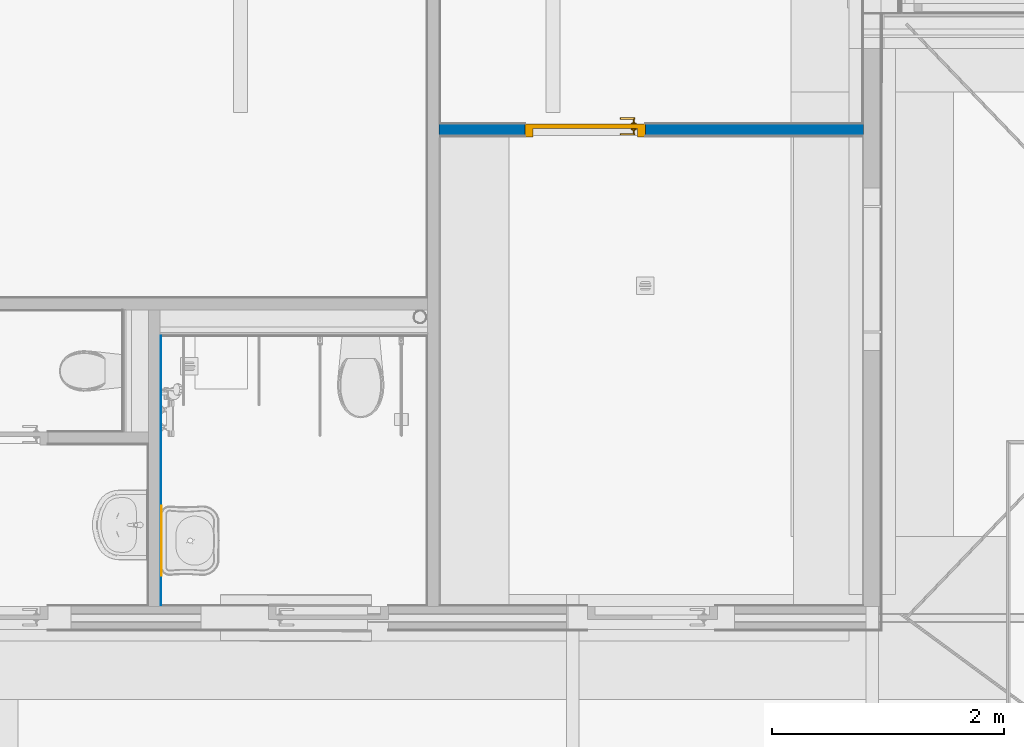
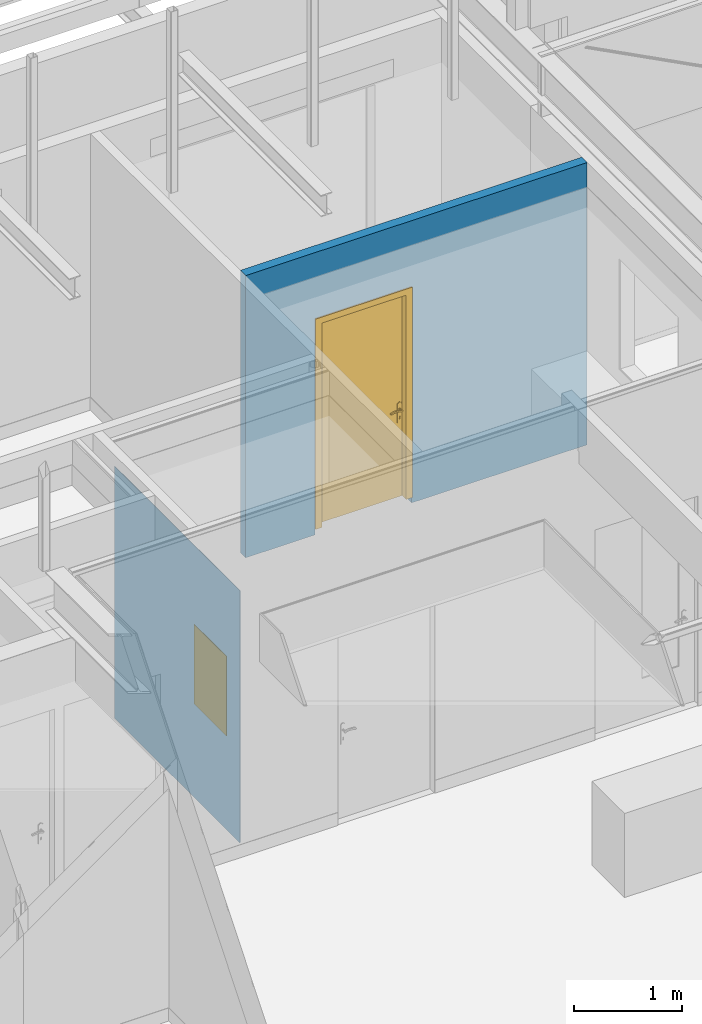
# One storey, part 11 of 788: 2 walls, 1 door, 1 window, 2 openings.
"""IFC2X3 building model written with IfcOpenShell, lengths in millimetres."""

from ifc_helpers import new_model, entity, si_unit, converted_unit, derived_unit, money_unit, direction, frame, origin_with_axes, place, context, subcontext, project, spatial, faceted_brep, source, transform, mapped, material, type_object, type_shapes, element, fill, save


model = new_model("IFC2X3")

# Units and contexts
model_context = context("Model", 3, precision=0.01, world=origin_with_axes(), true_north=direction((0.0, 1.0)))
plan_context = context("Plan", 3, precision=0.01, world=origin_with_axes(), true_north=direction((0.0, 1.0)))
body_context = subcontext(model_context, "Body", "Model", "MODEL_VIEW")
ifc_project = project(units=[si_unit("LENGTHUNIT", "METRE", prefix="MILLI"), si_unit("AREAUNIT", "SQUARE_METRE"), si_unit("VOLUMEUNIT", "CUBIC_METRE"), converted_unit("PLANEANGLEUNIT", "DEGREE", entity("IfcPlaneAngleMeasure", 0.0174532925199), si_unit("PLANEANGLEUNIT", "RADIAN"), dimensions=[0, 0, 0, 0, 0, 0, 0]), money_unit("EUR"), converted_unit("TIMEUNIT", "Year", entity("IfcTimeMeasure", 31556926.0), si_unit("TIMEUNIT", "SECOND"), dimensions=[0, 0, 1, 0, 0, 0, 0]), si_unit("MASSUNIT", "GRAM", prefix="KILO"), si_unit("THERMODYNAMICTEMPERATUREUNIT", "DEGREE_CELSIUS"), si_unit("LUMINOUSINTENSITYUNIT", "LUMEN"), si_unit("ENERGYUNIT", "JOULE", prefix="MEGA"), derived_unit("THERMALCONDUCTANCEUNIT", [(si_unit("POWERUNIT", "WATT"), 1), (si_unit("LENGTHUNIT", "METRE"), -1), (si_unit("THERMODYNAMICTEMPERATUREUNIT", "KELVIN"), -1)]), derived_unit("SPECIFICHEATCAPACITYUNIT", [(si_unit("ENERGYUNIT", "JOULE"), 1), (si_unit("MASSUNIT", "GRAM", prefix="KILO"), -1), (si_unit("THERMODYNAMICTEMPERATUREUNIT", "KELVIN"), -1)]), derived_unit("MASSDENSITYUNIT", [(si_unit("MASSUNIT", "GRAM", prefix="KILO"), 1), (si_unit("VOLUMEUNIT", "CUBIC_METRE"), -1)])], contexts=[model_context, plan_context])

# Site, building, storey
site_placement = place(None, origin_with_axes())
site = spatial("IfcSite", under=ifc_project, at=site_placement, Name="Site", CompositionType="ELEMENT")
building_placement = place(site_placement, origin_with_axes())
building = spatial("IfcBuilding", under=site, at=building_placement, Name="Naam gebouw", CompositionType="ELEMENT")
storey_placement = place(building_placement, origin_with_axes())
storey = spatial("IfcBuildingStorey", under=building, at=storey_placement, Name="Begane grond", CompositionType="ELEMENT", Elevation=0.0)

# Wall, opening, door
ifc_material_1 = material(Name="Steen - Betonblok C")
wall_type_1 = type_object("IfcWallType", Name="22 Binnenwand NC_betonblok 100mm 100", PredefinedType="ELEMENTEDWALL")
wall_1_placement = place(storey_placement, frame((81786.0166564, -46554.001831, 830.0), z_axis=(0.0, 0.0, 1.0), x_axis=(1.0, 0.0, 0.0)))
wall_1 = element("IfcWall", 1, at=wall_1_placement, inside=storey, type_object=wall_type_1, material=ifc_material_1, Name="Binnenwand", context=body_context, shape_type="Brep", body=[
    faceted_brep([(789.982892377, 0.0, 2447.0), (789.982892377, 0.0, 70.0), (789.982892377, 0.0, 0.0), (50.0, 0.0, 0.0), (50.0, 0.0, 3190.0), (3699.98467863, 0.0, 3190.0), (3699.98467863, 0.0, 0.0), (1823.98289238, 0.0, 0.0), (1823.98289238, 0.0, 70.0), (1823.98289238, 0.0, 2447.0), (789.982892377, -100.0, 2447.0), (789.982892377, -100.0, 70.0), (789.982892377, -100.0, 0.0), (50.0, -100.0, 0.0), (50.0, -100.0, 3190.0), (3699.98467863, -100.0, 3190.0), (3699.98467863, -100.0, 0.0), (1823.98289238, -100.0, 0.0), (1823.98289238, -100.0, 70.0), (1823.98289238, -100.0, 2447.0)], [[[0, 1, 2, 3, 4, 5, 6, 7, 8, 9]], [[1, 0, 10, 11]], [[1, 11, 12, 2]], [[2, 12, 13, 3]], [[13, 14, 4, 3]], [[14, 15, 5, 4]], [[5, 15, 16, 6]], [[17, 7, 6, 16]], [[18, 8, 7, 17]], [[9, 8, 18, 19]], [[0, 9, 19, 10]], [[19, 18, 17, 16, 15, 14, 13, 12, 11, 10]]]),
])
opening_1_placement = place(wall_1_placement, frame((1306.98289238, 0.0, 70.0), z_axis=(0.0, 0.0, 1.0), x_axis=(1.0, 0.0, 0.0)))
opening_1 = element("IfcOpeningElement", 2, at=opening_1_placement, cuts=wall_1, Name="b1.13-sp", context=body_context, shape_type="Brep", body=[
    faceted_brep([(-517.0, 200.0, 2377.0), (-517.0, 200.0, 0.0), (-517.0, -100.0, 0.0), (-517.0, -100.0, 2377.0), (517.0, 200.0, 2377.0), (517.0, 200.0, 0.0), (517.0, -100.0, 0.0), (517.0, -100.0, 2377.0)], [[[0, 1, 2, 3]], [[0, 4, 5, 1]], [[1, 5, 6, 2]], [[3, 2, 6, 7]], [[4, 0, 3, 7]], [[5, 4, 7, 6]]]),
])
door_style = type_object("IfcDoorStyle", Name="D1 25", ConstructionType="NOTDEFINED", OperationType="SINGLE_SWING_LEFT", ParameterTakesPrecedence=False, Sizeable=False)
shared_shape_1 = source(origin_with_axes(), body_context, "Body", "Brep", [
    faceted_brep([(450.0, -40.0, 0.0), (450.0, -114.0, 0.0), (450.0, -114.0, 2310.0), (450.0, -40.0, 2310.0), (467.0, -40.0, 0.0), (467.0, 0.0, 0.0), (517.0, 0.0, 0.0), (517.0, -114.0, 0.0), (517.0, -114.0, 2310.0), (467.0, -40.0, 2310.0), (517.0, 0.0, 2310.0), (467.0, 0.0, 2310.0)], [[[0, 1, 2, 3]], [[4, 5, 6, 7, 1, 0]], [[1, 7, 8, 2]], [[9, 3, 2, 8, 10, 11]], [[9, 4, 0, 3]], [[11, 5, 4, 9]], [[11, 10, 6, 5]], [[6, 10, 8, 7]]]),
    faceted_brep([(-467.0, -40.0, 2310.0), (-467.0, 0.0, 2310.0), (-517.0, 0.0, 2310.0), (-517.0, -114.0, 2310.0), (-450.0, -114.0, 2310.0), (-450.0, -40.0, 2310.0), (-467.0, -40.0, 0.0), (-467.0, 0.0, 0.0), (-517.0, 0.0, 0.0), (-517.0, -114.0, 0.0), (-450.0, -114.0, 0.0), (-450.0, -40.0, 0.0)], [[[0, 1, 2, 3, 4, 5]], [[0, 6, 7, 1]], [[7, 8, 2, 1]], [[2, 8, 9, 3]], [[3, 9, 10, 4]], [[5, 4, 10, 11]], [[5, 11, 6, 0]], [[6, 11, 10, 9, 8, 7]]]),
    faceted_brep([(467.0, 0.0, 2327.0), (-467.0, 0.0, 2327.0), (-467.0, 0.0, 2310.0), (-517.0, 0.0, 2310.0), (-517.0, 0.0, 2377.0), (517.0, 0.0, 2377.0), (517.0, 0.0, 2310.0), (467.0, 0.0, 2310.0), (467.0, -40.0, 2327.0), (-467.0, -40.0, 2327.0), (-467.0, -40.0, 2310.0), (-450.0, -40.0, 2310.0), (-450.0, -114.0, 2310.0), (-517.0, -114.0, 2310.0), (-517.0, -114.0, 2377.0), (517.0, -114.0, 2377.0), (517.0, -114.0, 2310.0), (467.0, -40.0, 2310.0), (450.0, -114.0, 2310.0), (450.0, -40.0, 2310.0)], [[[0, 1, 2, 3, 4, 5, 6, 7]], [[0, 8, 9, 1]], [[1, 9, 10, 2]], [[10, 11, 12, 13, 3, 2]], [[4, 3, 13, 14]], [[5, 4, 14, 15]], [[6, 5, 15, 16]], [[17, 7, 6, 16, 18, 19]], [[7, 17, 8, 0]], [[10, 9, 8, 17, 19, 11]], [[19, 18, 12, 11]], [[12, 18, 16, 15, 14, 13]]]),
    faceted_brep([(421.702282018, -80.0, 1006.47213595), (421.702282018, -60.0, 1006.47213595), (417.0, -60.0, 1008.0), (417.0, -80.0, 1008.0), (424.60845213, -80.0, 1002.47213595), (424.60845213, -60.0, 1002.47213595), (422.877852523, -58.0, 1008.09016994), (417.0, -58.0, 1010.0), (412.297717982, -60.0, 1006.47213595), (412.297717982, -80.0, 1006.47213595), (409.39154787, -80.0, 1002.47213595), (409.39154787, -80.0, 997.527864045), (412.297717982, -80.0, 993.527864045), (417.0, -80.0, 992.0), (421.702282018, -80.0, 993.527864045), (424.60845213, -80.0, 997.527864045), (424.60845213, -60.0, 997.527864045), (426.510565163, -58.0, 1003.09016994), (422.877852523, -50.0, 1008.09016994), (417.0, -50.0, 1010.0), (411.122147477, -58.0, 1008.09016994), (409.39154787, -60.0, 1002.47213595), (409.39154787, -60.0, 997.527864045), (412.297717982, -60.0, 993.527864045), (417.0, -60.0, 992.0), (421.702282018, -60.0, 993.527864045), (426.510565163, -58.0, 996.909830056), (426.510565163, -50.0, 1003.09016994), (426.510565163, -50.0, 996.909830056), (422.877852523, -50.0, 991.909830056), (417.0, -50.0, 990.0), (411.122147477, -50.0, 991.909830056), (407.489434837, -50.0, 996.909830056), (407.489434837, -50.0, 1003.09016994), (411.122147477, -50.0, 1008.09016994), (407.489434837, -58.0, 1003.09016994), (407.489434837, -58.0, 996.909830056), (411.122147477, -58.0, 991.909830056), (417.0, -58.0, 990.0), (422.877852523, -58.0, 991.909830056)], [[[0, 1, 2, 3]], [[4, 5, 1, 0]], [[1, 6, 7, 2]], [[3, 2, 8, 9]], [[3, 9, 10, 11, 12, 13, 14, 15, 4, 0]], [[15, 16, 5, 4]], [[5, 17, 6, 1]], [[6, 18, 19, 7]], [[2, 7, 20, 8]], [[9, 8, 21, 10]], [[10, 21, 22, 11]], [[11, 22, 23, 12]], [[12, 23, 24, 13]], [[13, 24, 25, 14]], [[14, 25, 16, 15]], [[16, 26, 17, 5]], [[17, 27, 18, 6]], [[19, 18, 27, 28, 29, 30, 31, 32, 33, 34]], [[7, 19, 34, 20]], [[8, 20, 35, 21]], [[21, 35, 36, 22]], [[22, 36, 37, 23]], [[23, 37, 38, 24]], [[24, 38, 39, 25]], [[25, 39, 26, 16]], [[26, 28, 27, 17]], [[39, 29, 28, 26]], [[38, 30, 29, 39]], [[37, 31, 30, 38]], [[36, 32, 31, 37]], [[35, 33, 32, 36]], [[20, 34, 33, 35]]]),
    faceted_brep([(404.811616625, -50.0, 1067.59695641), (400.2, -50.0, 1060.0), (394.5, -50.0, 1060.0), (394.5, -50.0, 840.0), (400.2, -50.0, 840.0), (404.811616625, -50.0, 832.403043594), (412.556444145, -50.0, 828.044328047), (421.443555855, -50.0, 828.044328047), (429.188383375, -50.0, 832.403043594), (433.8, -50.0, 840.0), (439.5, -50.0, 840.0), (439.5, -50.0, 1060.0), (433.8, -50.0, 1060.0), (429.188383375, -50.0, 1067.59695641), (421.443555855, -50.0, 1071.95567195), (412.556444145, -50.0, 1071.95567195), (417.0, -50.0, 917.425445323), (422.375182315, -50.0, 915.143815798), (424.467830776, -50.0, 909.692280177), (422.0, -50.0, 904.4), (422.0, -50.0, 887.5), (420.535533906, -50.0, 883.964466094), (417.0, -50.0, 882.5), (413.464466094, -50.0, 883.964466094), (412.0, -50.0, 887.5), (412.0, -50.0, 904.4), (409.532169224, -50.0, 909.692280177), (411.624817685, -50.0, 915.143815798), (404.811616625, -40.0, 1067.59695641), (400.2, -40.0, 1060.0), (394.5, -40.0, 1060.0), (394.5, -40.0, 840.0), (400.2, -40.0, 840.0), (404.811616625, -40.0, 832.403043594), (412.556444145, -40.0, 828.044328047), (421.443555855, -40.0, 828.044328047), (429.188383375, -40.0, 832.403043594), (433.8, -40.0, 840.0), (439.5, -40.0, 840.0), (439.5, -40.0, 1060.0), (433.8, -40.0, 1060.0), (429.188383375, -40.0, 1067.59695641), (421.443555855, -40.0, 1071.95567195), (412.556444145, -40.0, 1071.95567195), (417.0, -40.0, 917.425445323), (422.375182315, -40.0, 915.143815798), (424.467830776, -40.0, 909.692280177), (422.0, -40.0, 904.4), (422.0, -40.0, 887.5), (420.535533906, -40.0, 883.964466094), (417.0, -40.0, 882.5), (413.464466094, -40.0, 883.964466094), (412.0, -40.0, 887.5), (412.0, -40.0, 904.4), (409.532169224, -40.0, 909.692280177), (411.624817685, -40.0, 915.143815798)], [[[0, 1, 2, 3, 4, 5, 6, 7, 8, 9, 10, 11, 12, 13, 14, 15], [16, 17, 18, 19, 20, 21, 22, 23, 24, 25, 26, 27]], [[0, 28, 29, 1]], [[1, 29, 30, 2]], [[2, 30, 31, 3]], [[3, 31, 32, 4]], [[4, 32, 33, 5]], [[5, 33, 34, 6]], [[6, 34, 35, 7]], [[7, 35, 36, 8]], [[8, 36, 37, 9]], [[9, 37, 38, 10]], [[10, 38, 39, 11]], [[11, 39, 40, 12]], [[12, 40, 41, 13]], [[13, 41, 42, 14]], [[14, 42, 43, 15]], [[15, 43, 28, 0]], [[16, 44, 45, 17]], [[17, 45, 46, 18]], [[18, 46, 47, 19]], [[47, 48, 20, 19]], [[21, 20, 48, 49]], [[22, 21, 49, 50]], [[23, 22, 50, 51]], [[24, 23, 51, 52]], [[25, 24, 52, 53]], [[25, 53, 54, 26]], [[26, 54, 55, 27]], [[27, 55, 44, 16]], [[32, 31, 30, 29, 28, 43, 42, 41, 40, 39, 38, 37, 36, 35, 34, 33], [46, 45, 44, 55, 54, 53, 52, 51, 50, 49, 48, 47]]]),
    faceted_brep([(302.747, -80.0, 1007.158), (302.745508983, -80.0, 1007.19388416), (302.745508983, -95.0, 1007.19388416), (302.747, -95.0, 1007.158), (329.774630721, -80.0, 1014.32652034), (357.602743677, -80.0, 1017.06086405), (385.508740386, -80.0, 1015.29002982), (412.768, -80.0, 1009.06), (419.170575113, -80.0, 1009.76125134), (424.672633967, -80.0, 1006.41280843), (426.991512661, -80.0, 1000.40385485), (425.165167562, -80.0, 994.227352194), (419.951302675, -80.0, 990.445773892), (413.513017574, -80.0, 990.628000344), (408.521392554, -80.0, 994.698430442), (408.542, -80.0, 994.666), (383.253286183, -80.0, 1000.19878945), (357.410818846, -80.0, 1001.71460194), (331.648684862, -80.0, 999.176244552), (306.599, -80.0, 992.646), (301.055815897, -80.0, 993.568490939), (297.69427449, -80.0, 998.071591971), (298.385844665, -80.0, 1003.64829442), (298.385844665, -95.0, 1003.64829442), (297.69427449, -95.0, 998.071591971), (301.055815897, -95.0, 993.568490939), (306.599, -95.0, 992.646), (331.648684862, -95.0, 999.176244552), (357.410818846, -95.0, 1001.71460194), (383.253286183, -95.0, 1000.19878945), (408.542, -95.0, 994.666), (408.521392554, -95.0, 994.698430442), (413.513017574, -95.0, 990.628000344), (419.951302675, -95.0, 990.445773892), (425.165167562, -95.0, 994.227352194), (426.991512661, -95.0, 1000.40385485), (424.672633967, -95.0, 1006.41280843), (419.170575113, -95.0, 1009.76125134), (412.768, -95.0, 1009.06), (385.508740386, -95.0, 1015.29002982), (357.602743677, -95.0, 1017.06086405), (329.774630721, -95.0, 1014.32652034)], [[[0, 1, 2, 3]], [[0, 4, 5, 6, 7, 8, 9, 10, 11, 12, 13, 14, 15, 16, 17, 18, 19, 20, 21, 22, 1]], [[1, 22, 23, 2]], [[3, 2, 23, 24, 25, 26, 27, 28, 29, 30, 31, 32, 33, 34, 35, 36, 37, 38, 39, 40, 41]], [[4, 0, 3, 41]], [[5, 4, 41, 40]], [[6, 5, 40, 39]], [[7, 6, 39, 38]], [[8, 7, 38, 37]], [[9, 8, 37, 36]], [[10, 9, 36, 35]], [[11, 10, 35, 34]], [[12, 11, 34, 33]], [[13, 12, 33, 32]], [[14, 13, 32, 31]], [[15, 14, 31, 30]], [[16, 15, 30, 29]], [[17, 16, 29, 28]], [[18, 17, 28, 27]], [[19, 18, 27, 26]], [[20, 19, 26, 25]], [[21, 20, 25, 24]], [[22, 21, 24, 23]]]),
    faceted_brep([(421.702282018, 40.0, 1006.47213595), (417.0, 40.0, 1008.0), (417.0, 20.0, 1008.0), (421.702282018, 20.0, 1006.47213595), (424.60845213, 40.0, 1002.47213595), (424.60845213, 40.0, 997.527864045), (421.702282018, 40.0, 993.527864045), (417.0, 40.0, 992.0), (412.297717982, 40.0, 993.527864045), (409.39154787, 40.0, 997.527864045), (409.39154787, 40.0, 1002.47213595), (412.297717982, 40.0, 1006.47213595), (412.297717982, 20.0, 1006.47213595), (417.0, 18.0, 1010.0), (422.877852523, 18.0, 1008.09016994), (424.60845213, 20.0, 1002.47213595), (424.60845213, 20.0, 997.527864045), (421.702282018, 20.0, 993.527864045), (417.0, 20.0, 992.0), (412.297717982, 20.0, 993.527864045), (409.39154787, 20.0, 997.527864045), (409.39154787, 20.0, 1002.47213595), (411.122147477, 18.0, 1008.09016994), (417.0, 10.0, 1010.0), (422.877852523, 10.0, 1008.09016994), (426.510565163, 18.0, 1003.09016994), (426.510565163, 18.0, 996.909830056), (422.877852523, 18.0, 991.909830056), (417.0, 18.0, 990.0), (411.122147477, 18.0, 991.909830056), (407.489434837, 18.0, 996.909830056), (407.489434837, 18.0, 1003.09016994), (411.122147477, 10.0, 1008.09016994), (407.489434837, 10.0, 1003.09016994), (407.489434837, 10.0, 996.909830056), (411.122147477, 10.0, 991.909830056), (417.0, 10.0, 990.0), (422.877852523, 10.0, 991.909830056), (426.510565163, 10.0, 996.909830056), (426.510565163, 10.0, 1003.09016994)], [[[0, 1, 2, 3]], [[1, 0, 4, 5, 6, 7, 8, 9, 10, 11]], [[1, 11, 12, 2]], [[3, 2, 13, 14]], [[4, 0, 3, 15]], [[5, 4, 15, 16]], [[6, 5, 16, 17]], [[7, 6, 17, 18]], [[8, 7, 18, 19]], [[9, 8, 19, 20]], [[10, 9, 20, 21]], [[11, 10, 21, 12]], [[2, 12, 22, 13]], [[14, 13, 23, 24]], [[15, 3, 14, 25]], [[16, 15, 25, 26]], [[17, 16, 26, 27]], [[18, 17, 27, 28]], [[19, 18, 28, 29]], [[20, 19, 29, 30]], [[21, 20, 30, 31]], [[12, 21, 31, 22]], [[13, 22, 32, 23]], [[23, 32, 33, 34, 35, 36, 37, 38, 39, 24]], [[25, 14, 24, 39]], [[26, 25, 39, 38]], [[27, 26, 38, 37]], [[28, 27, 37, 36]], [[29, 28, 36, 35]], [[30, 29, 35, 34]], [[31, 30, 34, 33]], [[22, 31, 33, 32]]]),
    faceted_brep([(404.811616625, 0.0, 1067.59695641), (400.2, 0.0, 1060.0), (394.5, 0.0, 1060.0), (394.5, 0.0, 840.0), (400.2, 0.0, 840.0), (404.811616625, 0.0, 832.403043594), (412.556444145, 0.0, 828.044328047), (421.443555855, 0.0, 828.044328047), (429.188383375, 0.0, 832.403043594), (433.8, 0.0, 840.0), (439.5, 0.0, 840.0), (439.5, 0.0, 1060.0), (433.8, 0.0, 1060.0), (429.188383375, 0.0, 1067.59695641), (421.443555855, 0.0, 1071.95567195), (412.556444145, 0.0, 1071.95567195), (417.0, 0.0, 917.425445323), (422.375182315, 0.0, 915.143815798), (424.467830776, 0.0, 909.692280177), (422.0, 0.0, 904.4), (422.0, 0.0, 887.5), (420.535533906, 0.0, 883.964466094), (417.0, 0.0, 882.5), (413.464466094, 0.0, 883.964466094), (412.0, 0.0, 887.5), (412.0, 0.0, 904.4), (409.532169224, 0.0, 909.692280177), (411.624817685, 0.0, 915.143815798), (404.811616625, 10.0, 1067.59695641), (400.2, 10.0, 1060.0), (394.5, 10.0, 1060.0), (394.5, 10.0, 840.0), (400.2, 10.0, 840.0), (404.811616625, 10.0, 832.403043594), (412.556444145, 10.0, 828.044328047), (421.443555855, 10.0, 828.044328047), (429.188383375, 10.0, 832.403043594), (433.8, 10.0, 840.0), (439.5, 10.0, 840.0), (439.5, 10.0, 1060.0), (433.8, 10.0, 1060.0), (429.188383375, 10.0, 1067.59695641), (421.443555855, 10.0, 1071.95567195), (412.556444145, 10.0, 1071.95567195), (417.0, 10.0, 917.425445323), (422.375182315, 10.0, 915.143815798), (424.467830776, 10.0, 909.692280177), (422.0, 10.0, 904.4), (422.0, 10.0, 887.5), (420.535533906, 10.0, 883.964466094), (417.0, 10.0, 882.5), (413.464466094, 10.0, 883.964466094), (412.0, 10.0, 887.5), (412.0, 10.0, 904.4), (409.532169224, 10.0, 909.692280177), (411.624817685, 10.0, 915.143815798)], [[[0, 1, 2, 3, 4, 5, 6, 7, 8, 9, 10, 11, 12, 13, 14, 15], [16, 17, 18, 19, 20, 21, 22, 23, 24, 25, 26, 27]], [[28, 29, 1, 0]], [[29, 30, 2, 1]], [[30, 31, 3, 2]], [[31, 32, 4, 3]], [[32, 33, 5, 4]], [[33, 34, 6, 5]], [[34, 35, 7, 6]], [[35, 36, 8, 7]], [[36, 37, 9, 8]], [[37, 38, 10, 9]], [[38, 39, 11, 10]], [[39, 40, 12, 11]], [[40, 41, 13, 12]], [[41, 42, 14, 13]], [[42, 43, 15, 14]], [[43, 28, 0, 15]], [[16, 44, 45, 17]], [[17, 45, 46, 18]], [[18, 46, 47, 19]], [[47, 48, 20, 19]], [[21, 20, 48, 49]], [[22, 21, 49, 50]], [[23, 22, 50, 51]], [[24, 23, 51, 52]], [[25, 24, 52, 53]], [[25, 53, 54, 26]], [[26, 54, 55, 27]], [[27, 55, 44, 16]], [[32, 31, 30, 29, 28, 43, 42, 41, 40, 39, 38, 37, 36, 35, 34, 33], [46, 45, 44, 55, 54, 53, 52, 51, 50, 49, 48, 47]]]),
    faceted_brep([(302.747, 40.0, 1007.158), (302.747, 55.0, 1007.158), (302.745508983, 55.0, 1007.19388416), (302.745508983, 40.0, 1007.19388416), (329.774630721, 40.0, 1014.32652034), (329.774630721, 55.0, 1014.32652034), (357.602743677, 55.0, 1017.06086405), (385.508740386, 55.0, 1015.29002982), (412.768, 55.0, 1009.06), (419.170575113, 55.0, 1009.76125134), (424.672633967, 55.0, 1006.41280843), (426.991512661, 55.0, 1000.40385485), (425.165167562, 55.0, 994.227352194), (419.951302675, 55.0, 990.445773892), (413.513017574, 55.0, 990.628000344), (408.521392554, 55.0, 994.698430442), (408.542, 55.0, 994.666), (383.253286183, 55.0, 1000.19878945), (357.410818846, 55.0, 1001.71460194), (331.648684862, 55.0, 999.176244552), (306.599, 55.0, 992.646), (301.055815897, 55.0, 993.568490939), (297.69427449, 55.0, 998.071591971), (298.385844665, 55.0, 1003.64829442), (298.385844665, 40.0, 1003.64829442), (297.69427449, 40.0, 998.071591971), (301.055815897, 40.0, 993.568490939), (306.599, 40.0, 992.646), (331.648684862, 40.0, 999.176244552), (357.410818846, 40.0, 1001.71460194), (383.253286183, 40.0, 1000.19878945), (408.542, 40.0, 994.666), (408.521392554, 40.0, 994.698430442), (413.513017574, 40.0, 990.628000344), (419.951302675, 40.0, 990.445773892), (425.165167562, 40.0, 994.227352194), (426.991512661, 40.0, 1000.40385485), (424.672633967, 40.0, 1006.41280843), (419.170575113, 40.0, 1009.76125134), (412.768, 40.0, 1009.06), (385.508740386, 40.0, 1015.29002982), (357.602743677, 40.0, 1017.06086405)], [[[0, 1, 2, 3]], [[4, 5, 1, 0]], [[1, 5, 6, 7, 8, 9, 10, 11, 12, 13, 14, 15, 16, 17, 18, 19, 20, 21, 22, 23, 2]], [[3, 2, 23, 24]], [[0, 3, 24, 25, 26, 27, 28, 29, 30, 31, 32, 33, 34, 35, 36, 37, 38, 39, 40, 41, 4]], [[41, 6, 5, 4]], [[40, 7, 6, 41]], [[39, 8, 7, 40]], [[38, 9, 8, 39]], [[37, 10, 9, 38]], [[36, 11, 10, 37]], [[35, 12, 11, 36]], [[34, 13, 12, 35]], [[33, 14, 13, 34]], [[32, 15, 14, 33]], [[31, 16, 15, 32]], [[30, 17, 16, 31]], [[29, 18, 17, 30]], [[28, 19, 18, 29]], [[27, 20, 19, 28]], [[26, 21, 20, 27]], [[25, 22, 21, 26]], [[24, 23, 22, 25]]]),
    faceted_brep([(-467.0, 0.0, 0.0), (467.0, 0.0, 0.0), (467.0, -40.0, 0.0), (-467.0, -40.0, 0.0), (-467.0, 0.0, 2327.0), (467.0, 0.0, 2327.0), (467.0, -40.0, 2327.0), (-467.0, -40.0, 2327.0)], [[[0, 1, 2, 3]], [[0, 4, 5, 1]], [[1, 5, 6, 2]], [[3, 2, 6, 7]], [[4, 0, 3, 7]], [[5, 4, 7, 6]]]),
])
type_shapes(door_style, [shared_shape_1])
door_placement = place(opening_1_placement, frame((-517.0, 0.0, 0.0), z_axis=(0.0, 0.0, 1.0), x_axis=(1.0, 0.0, 0.0)))
door = element("IfcDoor", 3, at=door_placement, inside=storey, type_object=door_style, Name="b1.13-sp", ObjectType="DOOR", OverallHeight=2377.0, OverallWidth=1034.0, context=body_context, shape_type="MappedRepresentation", body=[
    mapped(shared_shape_1, transform((517.0, 0.0, 0.0))),
])
fill(opening_1, door)

# Wall, opening, window
ifc_material_2 = material(Name="AFW - Wandtegelwerk")
wall_type_2 = type_object("IfcWallType", Name="AFW - Wandtegelwerk 5", PredefinedType="ELEMENTEDWALL")
wall_2_placement = place(storey_placement, frame((79444.0426826, -50696.0000751, 900.0), z_axis=(0.0, 0.0, 1.0), x_axis=(0.0, 1.0, 0.0)))
wall_2 = element("IfcWall", 4, at=wall_2_placement, inside=storey, type_object=wall_type_2, material=ifc_material_2, Name="Wandtegelwerk", context=body_context, shape_type="Brep", body=[
    faceted_brep([(2319.04169189, 5.0, 0.0), (2319.04169189, 0.0, 0.0), (0.0, 0.0, 0.0), (3.23296944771e-09, 5.0, 0.0), (2319.04169189, 5.0, 2850.0), (2319.04169189, 0.0, 2850.0), (0.0, 0.0, 2850.0), (3.23296944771e-09, 5.0, 2850.0)], [[[0, 1, 2, 3]], [[1, 0, 4, 5]], [[1, 5, 6, 2]], [[7, 3, 2, 6]], [[4, 0, 3, 7]], [[5, 4, 7, 6]]]),
])
opening_2_placement = place(wall_2_placement, frame((556.999475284, 0.0, 1050.0), z_axis=(0.0, 0.0, 1.0), x_axis=(1.0, 0.0, 0.0)))
opening_2 = element("IfcOpeningElement", 5, at=opening_2_placement, cuts=wall_2, Name="nis tbv luifel", context=body_context, shape_type="Brep", body=[
    faceted_brep([(0.0, -1015.0, 0.0), (10.0, -1005.0, 0.0), (10.0, -1005.0, 10.0), (0.0, -1015.0, 10.0), (-10.0, -1005.0, 0.0), (-10.0, -1005.0, 10.0)], [[[0, 1, 2, 3]], [[0, 4, 1]], [[1, 4, 5, 2]], [[3, 2, 5]], [[4, 0, 3, 5]]]),
])
window_style = type_object("IfcWindowStyle", Name="R Uitstulping 25", ConstructionType="NOTDEFINED", OperationType="NOTDEFINED", ParameterTakesPrecedence=False, Sizeable=False)
shared_shape_2 = source(origin_with_axes(), body_context, "Body", "Brep", [
    faceted_brep([(-300.0, 0.0, 0.0), (300.0, 0.0, 0.0), (300.0, 0.0, 900.0), (-300.0, 0.0, 900.0), (-300.0, 5.0, 0.0), (300.0, 5.0, 0.0), (300.0, 5.0, 900.0), (-300.0, 5.0, 900.0)], [[[0, 1, 2, 3]], [[0, 4, 5, 1]], [[1, 5, 6, 2]], [[3, 2, 6, 7]], [[4, 0, 3, 7]], [[5, 4, 7, 6]]]),
])
type_shapes(window_style, [shared_shape_2])
window_placement = place(opening_2_placement, frame((300.0, 0.0, 0.0), z_axis=(0.0, 0.0, 1.0), x_axis=(-1.0, 0.0, 0.0)))
window = element("IfcWindow", 6, at=window_placement, inside=storey, type_object=window_style, material=ifc_material_2, Name="nis tbv luifel", ObjectType="WINDOW", OverallHeight=900.0, OverallWidth=600.0, context=body_context, shape_type="MappedRepresentation", body=[
    mapped(shared_shape_2, transform((300.0, 0.0, 0.0))),
])
fill(opening_2, window)

save(model, "model.ifc")
